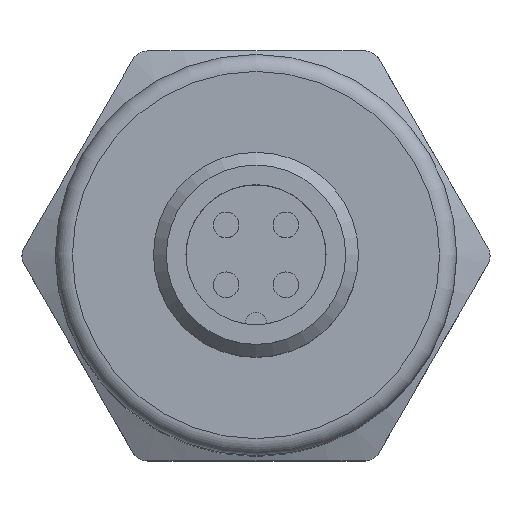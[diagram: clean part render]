
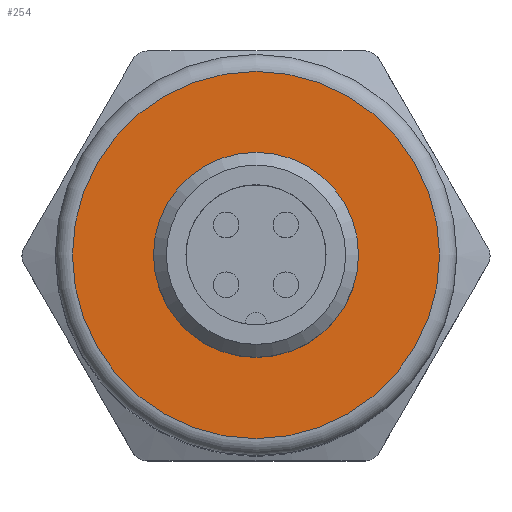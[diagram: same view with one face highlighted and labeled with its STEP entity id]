
A CAD part, top view. The second image highlights one B-rep face of the part: STEP entity #254.
In plain terms, the highlighted planar face has unit normal (0, 0, 1).
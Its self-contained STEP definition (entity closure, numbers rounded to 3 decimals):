
#254=ADVANCED_FACE('',(#339,#340),#281,.T.);
#281=PLANE('',#899);
#339=FACE_BOUND('',#437,.T.);
#340=FACE_BOUND('',#438,.T.);
#437=EDGE_LOOP('',(#601));
#438=EDGE_LOOP('',(#602));
#601=ORIENTED_EDGE('',*,*,#764,.T.);
#602=ORIENTED_EDGE('',*,*,#763,.T.);
#681=VERTEX_POINT('',#1506);
#682=VERTEX_POINT('',#1509);
#763=EDGE_CURVE('',#681,#681,#807,.T.);
#764=EDGE_CURVE('',#682,#682,#808,.T.);
#807=CIRCLE('',#896,5.25);
#808=CIRCLE('',#898,10.75);
#896=AXIS2_PLACEMENT_3D('',#1505,#1086,#1087);
#898=AXIS2_PLACEMENT_3D('',#1508,#1090,#1091);
#899=AXIS2_PLACEMENT_3D('',#1510,#1092,#1093);
#1086=DIRECTION('',(0.,0.,-1.));
#1087=DIRECTION('',(1.,0.,0.));
#1090=DIRECTION('',(0.,0.,1.));
#1091=DIRECTION('',(1.,0.,0.));
#1092=DIRECTION('',(0.,0.,1.));
#1093=DIRECTION('',(1.,0.,0.));
#1505=CARTESIAN_POINT('',(0.504,0.438,50.5));
#1506=CARTESIAN_POINT('',(5.754,0.438,50.5));
#1508=CARTESIAN_POINT('',(0.504,0.438,50.5));
#1509=CARTESIAN_POINT('',(11.254,0.438,50.5));
#1510=CARTESIAN_POINT('',(0.504,0.438,50.5));
